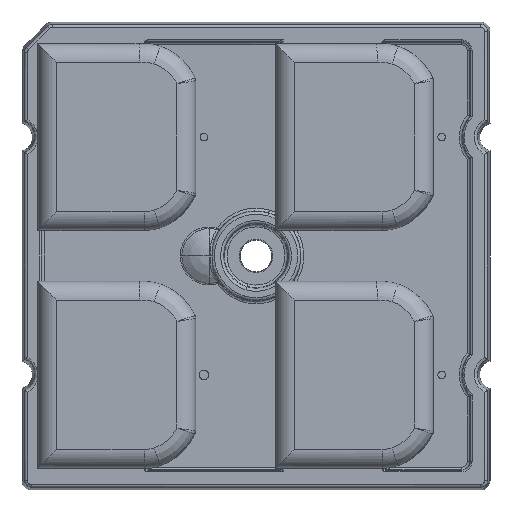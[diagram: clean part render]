
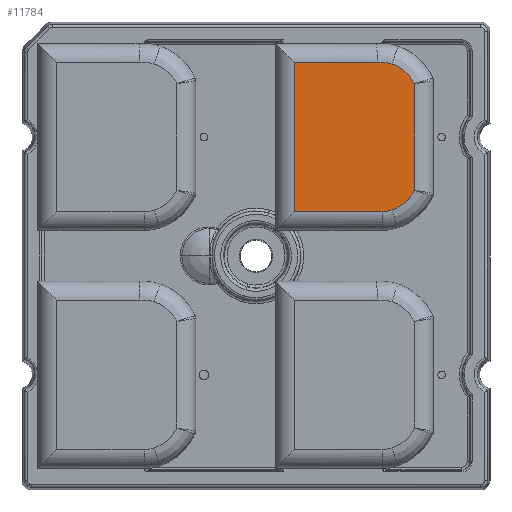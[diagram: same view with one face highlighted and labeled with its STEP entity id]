
A CAD part, top view. The second image highlights one B-rep face of the part: STEP entity #11784.
In plain terms, the highlighted planar face has unit normal (0, 0, 1).
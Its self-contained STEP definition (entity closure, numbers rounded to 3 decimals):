
#11671=CARTESIAN_POINT('Axis2P3D Location',(0.,0.,6.613)) ;
#11676=CARTESIAN_POINT('Axis2P3D Location',(25.992,-3.928,6.613)) ;
#11680=CARTESIAN_POINT('Vertex',(26.162,-7.987,6.613)) ;
#11682=CARTESIAN_POINT('Vertex',(27.233,-7.796,6.613)) ;
#11686=CARTESIAN_POINT('Control Point',(29.654,-5.691,6.613)) ;
#11687=CARTESIAN_POINT('Control Point',(29.556,-5.867,6.613)) ;
#11688=CARTESIAN_POINT('Control Point',(29.453,-6.036,6.613)) ;
#11689=CARTESIAN_POINT('Control Point',(29.343,-6.197,6.613)) ;
#11690=CARTESIAN_POINT('Control Point',(29.183,-6.411,6.613)) ;
#11691=CARTESIAN_POINT('Control Point',(29.011,-6.609,6.613)) ;
#11692=CARTESIAN_POINT('Control Point',(28.963,-6.663,6.613)) ;
#11693=CARTESIAN_POINT('Control Point',(28.864,-6.769,6.613)) ;
#11694=CARTESIAN_POINT('Control Point',(28.761,-6.87,6.613)) ;
#11695=CARTESIAN_POINT('Control Point',(28.709,-6.919,6.613)) ;
#11696=CARTESIAN_POINT('Control Point',(28.577,-7.039,6.613)) ;
#11697=CARTESIAN_POINT('Control Point',(28.44,-7.151,6.613)) ;
#11698=CARTESIAN_POINT('Control Point',(28.356,-7.215,6.613)) ;
#11699=CARTESIAN_POINT('Control Point',(28.186,-7.337,6.613)) ;
#11700=CARTESIAN_POINT('Control Point',(28.014,-7.444,6.613)) ;
#11701=CARTESIAN_POINT('Control Point',(27.927,-7.494,6.613)) ;
#11702=CARTESIAN_POINT('Control Point',(27.759,-7.584,6.613)) ;
#11703=CARTESIAN_POINT('Control Point',(27.6,-7.657,6.613)) ;
#11704=CARTESIAN_POINT('Control Point',(27.525,-7.689,6.613)) ;
#11705=CARTESIAN_POINT('Control Point',(27.418,-7.732,6.613)) ;
#11706=CARTESIAN_POINT('Control Point',(27.323,-7.766,6.613)) ;
#11707=CARTESIAN_POINT('Control Point',(27.292,-7.776,6.613)) ;
#11708=CARTESIAN_POINT('Control Point',(27.262,-7.786,6.613)) ;
#11709=CARTESIAN_POINT('Control Point',(27.234,-7.796,6.613)) ;
#11710=CARTESIAN_POINT('Control Point',(27.233,-7.796,6.613)) ;
#11711=CARTESIAN_POINT('Control Point',(27.233,-7.796,6.613)) ;
#11712=CARTESIAN_POINT('Control Point',(27.233,-7.796,6.613)) ;
#11713=CARTESIAN_POINT('Vertex',(29.654,-5.691,6.613)) ;
#11716=CARTESIAN_POINT('Line Origine',(29.654,0.,6.613)) ;
#11720=CARTESIAN_POINT('Vertex',(29.654,5.691,6.613)) ;
#11724=CARTESIAN_POINT('Control Point',(27.233,7.796,6.613)) ;
#11725=CARTESIAN_POINT('Control Point',(27.286,7.779,6.613)) ;
#11726=CARTESIAN_POINT('Control Point',(27.342,7.76,6.613)) ;
#11727=CARTESIAN_POINT('Control Point',(27.403,7.737,6.613)) ;
#11728=CARTESIAN_POINT('Control Point',(27.538,7.684,6.613)) ;
#11729=CARTESIAN_POINT('Control Point',(27.69,7.616,6.613)) ;
#11730=CARTESIAN_POINT('Control Point',(27.77,7.577,6.613)) ;
#11731=CARTESIAN_POINT('Control Point',(27.936,7.49,6.613)) ;
#11732=CARTESIAN_POINT('Control Point',(28.106,7.387,6.613)) ;
#11733=CARTESIAN_POINT('Control Point',(28.191,7.331,6.613)) ;
#11734=CARTESIAN_POINT('Control Point',(28.362,7.213,6.613)) ;
#11735=CARTESIAN_POINT('Control Point',(28.526,7.082,6.613)) ;
#11736=CARTESIAN_POINT('Control Point',(28.607,7.013,6.613)) ;
#11737=CARTESIAN_POINT('Control Point',(28.844,6.798,6.613)) ;
#11738=CARTESIAN_POINT('Control Point',(29.063,6.56,6.613)) ;
#11739=CARTESIAN_POINT('Control Point',(29.202,6.391,6.613)) ;
#11740=CARTESIAN_POINT('Control Point',(29.377,6.15,6.613)) ;
#11741=CARTESIAN_POINT('Control Point',(29.538,5.892,6.613)) ;
#11742=CARTESIAN_POINT('Control Point',(29.577,5.826,6.613)) ;
#11743=CARTESIAN_POINT('Control Point',(29.616,5.759,6.613)) ;
#11744=CARTESIAN_POINT('Control Point',(29.654,5.691,6.613)) ;
#11745=CARTESIAN_POINT('Vertex',(27.233,7.796,6.613)) ;
#11748=CARTESIAN_POINT('Axis2P3D Location',(25.992,3.928,6.613)) ;
#11752=CARTESIAN_POINT('Vertex',(25.672,7.978,6.613)) ;
#11755=CARTESIAN_POINT('Line Origine',(21.232,7.978,6.613)) ;
#11759=CARTESIAN_POINT('Vertex',(16.792,7.978,6.613)) ;
#11762=CARTESIAN_POINT('Line Origine',(16.792,-0.005,6.613)) ;
#11766=CARTESIAN_POINT('Vertex',(16.792,-7.987,6.613)) ;
#11769=CARTESIAN_POINT('Line Origine',(21.477,-7.987,6.613)) ;
#11672=DIRECTION('Axis2P3D Direction',(-0.,0.,1.)) ;
#11673=DIRECTION('Axis2P3D XDirection',(1.,0.,0.)) ;
#11677=DIRECTION('Axis2P3D Direction',(-0.,0.,1.)) ;
#11717=DIRECTION('Vector Direction',(0.,1.,0.)) ;
#11749=DIRECTION('Axis2P3D Direction',(-0.,0.,1.)) ;
#11756=DIRECTION('Vector Direction',(-1.,0.,0.)) ;
#11763=DIRECTION('Vector Direction',(0.,1.,0.)) ;
#11770=DIRECTION('Vector Direction',(-1.,0.,0.)) ;
#11674=AXIS2_PLACEMENT_3D('Plane Axis2P3D',#11671,#11672,#11673) ;
#11678=AXIS2_PLACEMENT_3D('Circle Axis2P3D',#11676,#11677,$) ;
#11750=AXIS2_PLACEMENT_3D('Circle Axis2P3D',#11748,#11749,$) ;
#11775=ORIENTED_EDGE('',*,*,#11684,.T.) ;
#11776=ORIENTED_EDGE('',*,*,#11715,.T.) ;
#11777=ORIENTED_EDGE('',*,*,#11722,.T.) ;
#11778=ORIENTED_EDGE('',*,*,#11747,.T.) ;
#11779=ORIENTED_EDGE('',*,*,#11754,.T.) ;
#11780=ORIENTED_EDGE('',*,*,#11761,.T.) ;
#11781=ORIENTED_EDGE('',*,*,#11768,.T.) ;
#11782=ORIENTED_EDGE('',*,*,#11773,.T.) ;
#11718=VECTOR('Line Direction',#11717,1.) ;
#11757=VECTOR('Line Direction',#11756,1.) ;
#11764=VECTOR('Line Direction',#11763,1.) ;
#11771=VECTOR('Line Direction',#11770,1.) ;
#11784=ADVANCED_FACE('PartBody',(#11783),#11675,.T.) ;
#11685=B_SPLINE_CURVE_WITH_KNOTS('',5,(#11686,#11687,#11688,#11689,#11690,#11691,#11692,#11693,#11694,#11695,#11696,#11697,#11698,#11699,#11700,#11701,#11702,#11703,#11704,#11705,#11706,#11707,#11708,#11709,#11710,#11711,#11712),.UNSPECIFIED.,.F.,.U.,(6,3,3,3,3,3,3,3,6),(14.675,17.221,18.209,19.196,20.66,22.12,23.56,24.309,24.316),.UNSPECIFIED.) ;
#11723=B_SPLINE_CURVE_WITH_KNOTS('',5,(#11724,#11725,#11726,#11727,#11728,#11729,#11730,#11731,#11732,#11733,#11734,#11735,#11736,#11737,#11738,#11739,#11740,#11741,#11742,#11743,#11744),.UNSPECIFIED.,.F.,.U.,(6,3,3,3,3,3,6),(20.125,21.509,22.933,24.384,25.847,28.789,29.773),.UNSPECIFIED.) ;
#11679=CIRCLE('generated circle',#11678,4.062) ;
#11751=CIRCLE('generated circle',#11750,4.062) ;
#11684=EDGE_CURVE('',#11681,#11683,#11679,.T.) ;
#11715=EDGE_CURVE('',#11683,#11714,#11685,.F.) ;
#11722=EDGE_CURVE('',#11714,#11721,#11719,.T.) ;
#11747=EDGE_CURVE('',#11721,#11746,#11723,.F.) ;
#11754=EDGE_CURVE('',#11746,#11753,#11751,.T.) ;
#11761=EDGE_CURVE('',#11753,#11760,#11758,.T.) ;
#11768=EDGE_CURVE('',#11760,#11767,#11765,.F.) ;
#11773=EDGE_CURVE('',#11767,#11681,#11772,.F.) ;
#11774=EDGE_LOOP('',(#11775,#11776,#11777,#11778,#11779,#11780,#11781,#11782)) ;
#11783=FACE_OUTER_BOUND('',#11774,.T.) ;
#11719=LINE('Line',#11716,#11718) ;
#11758=LINE('Line',#11755,#11757) ;
#11765=LINE('Line',#11762,#11764) ;
#11772=LINE('Line',#11769,#11771) ;
#11675=PLANE('',#11674) ;
#11681=VERTEX_POINT('',#11680) ;
#11683=VERTEX_POINT('',#11682) ;
#11714=VERTEX_POINT('',#11713) ;
#11721=VERTEX_POINT('',#11720) ;
#11746=VERTEX_POINT('',#11745) ;
#11753=VERTEX_POINT('',#11752) ;
#11760=VERTEX_POINT('',#11759) ;
#11767=VERTEX_POINT('',#11766) ;
